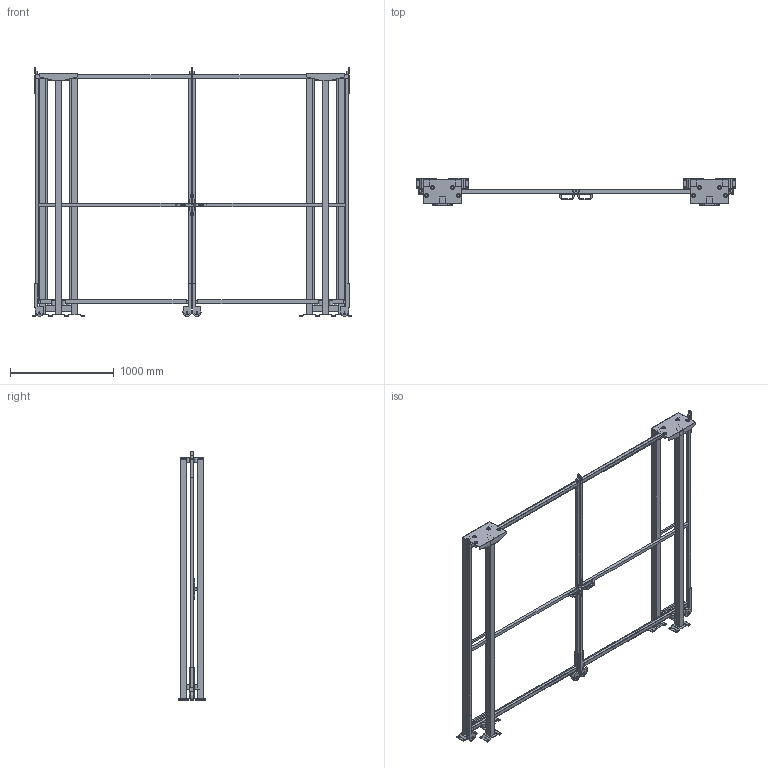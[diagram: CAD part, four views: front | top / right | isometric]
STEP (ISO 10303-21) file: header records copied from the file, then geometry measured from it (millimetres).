
FILE_DESCRIPTION(/* description */ (''),/* implementation_level */ '2;1');
FILE_NAME(/* name */ 'C:\SafeGuarding\ELABORATI\KLADKA2KR_2025-03-25-12-04-37.stp',/* time_stamp */ '2025-03-25T12:04:41+01:00',/* author */ ('admin'),/* organization */ (''),/* preprocessor_version */ 'ST-DEVELOPER v18.1',/* originating_system */ 'AutoCAD Mechanical',/* authorisation */ '');
FILE_SCHEMA (('AUTOMOTIVE_DESIGN { 1 0 10303 214 3 1 1 }'));
Length unit declared in the file: millimetre
Products named in the file (5): Product; R_VFPA.REPE30.15002200; P_VFMA.V360SDU.2320; R_VFPA.REPE20.02502200; P_VFMA.V260SDU.2320
Assembly tree (10 placements, depth 2):
  Product
    R_VFPA.REPE30.15002200  x2
    P_VFMA.V360SDU.2320  x2
    P_VFMA.V260SDU.2320  x4
    R_VFPA.REPE20.02502200  x2
Bounding box: 3071.36 x 264 x 2390.02 mm (x, y, z)
Volume: 76172353.5 mm3; surface area: 10725247.5 mm2
Topology: 98 solids, 120 shells, 886 faces, 2739 edges, 2713 vertices
Faces by surface type: plane 810, cylinder 76
Full cylindrical faces by diameter (mm): 9 x8, 11 x24, 13 x8, 14 x4, 30 x12, 36 x16, 80 x4
Entity records: 23933 total; most frequent: CARTESIAN_POINT 5053, DIRECTION 3662, ORIENTED_EDGE 3404, EDGE_CURVE 1800, LINE 1670, VECTOR 1670, VERTEX_POINT 1280, AXIS2_PLACEMENT_3D 996
